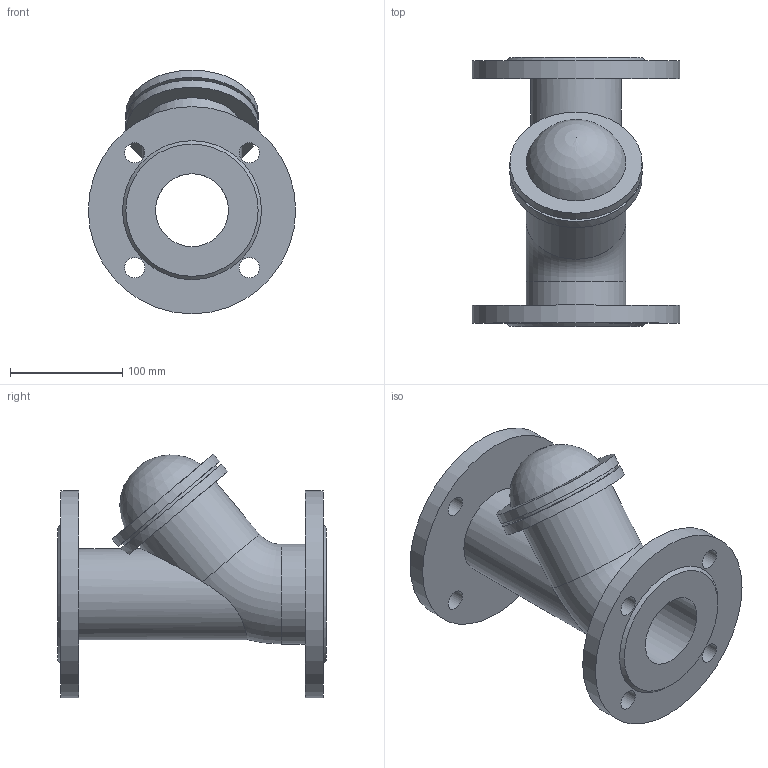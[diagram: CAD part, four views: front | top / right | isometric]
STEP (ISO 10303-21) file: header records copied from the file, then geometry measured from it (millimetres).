
FILE_DESCRIPTION(('STEP AP203'), '1');
FILE_NAME('Êëàïàí îáðàòíûé øàðîâîé ôëàíöåâûé 012F DN65', '', ('UNSPECIFIED'), ('UNSPECIFIED'), 'ASCON STEP Converter 1.6', 'ASCON Math Kernel', '');
FILE_SCHEMA(('CONFIG_CONTROL_DESIGN'));
Length unit declared in the file: millimetre
Bounding box: 185 x 240 x 217.5 mm (x, y, z)
Volume: 1661420.7 mm3; surface area: 263527.2 mm2
Topology: 1 solids, 1 shells, 37 faces, 88 edges, 58 vertices
Faces by surface type: cylinder 20, plane 12, torus 2, cone 2, sphere 1
Full cylindrical faces by diameter (mm): 18 x8, 65 x2, 81 x1, 89 x2, 108 x1, 118 x1, 185 x2
Entity records: 1811 total; most frequent: CARTESIAN_POINT 667, DIRECTION 172, ORIENTED_EDGE 128, AXIS2_PLACEMENT_3D 86, EDGE_LOOP 85, EDGE_CURVE 64, VERTEX_POINT 57, FACE_BOUND 48
